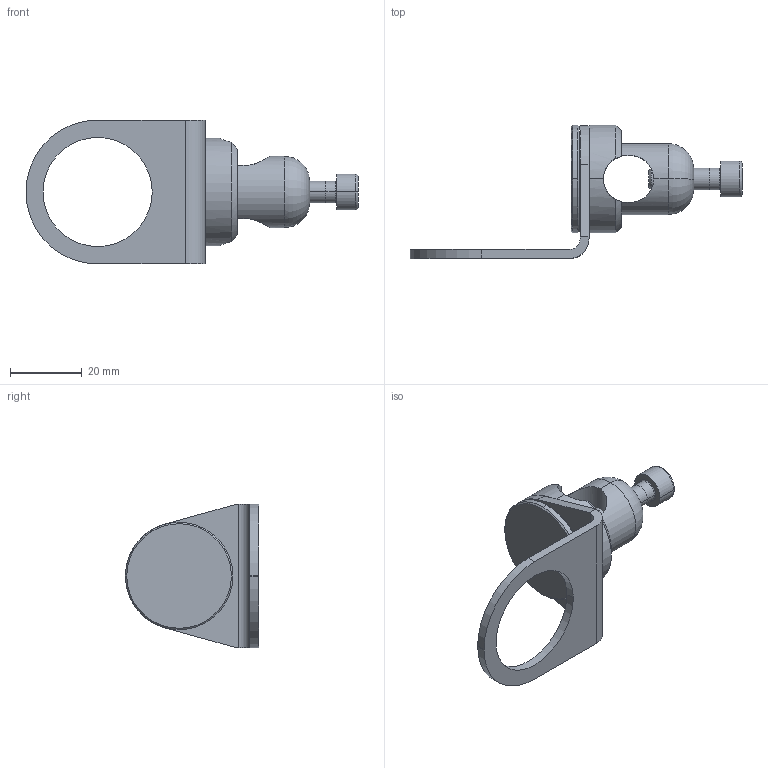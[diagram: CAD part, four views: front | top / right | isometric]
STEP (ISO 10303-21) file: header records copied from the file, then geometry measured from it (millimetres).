
FILE_DESCRIPTION (( 'STEP AP203' ), '1' );
FILE_NAME ('W30S12VA_HZ (4).STEP', '2024-04-04T13:45:03', ( '' ), ( '' ), 'SwSTEP 2.0', 'SolidWorks 2021', '' );
FILE_SCHEMA (( 'CONFIG_CONTROL_DESIGN' ));
Length unit declared in the file: millimetre
Products named in the file (4): 1032560_1; W30S12VA_HZ (4); ZNR11935_1; 1037466_1
Assembly tree (3 placements, depth 2):
  W30S12VA_HZ (4)
    1037466_1
    1032560_1
    ZNR11935_1
Bounding box: 92.7 x 37.2 x 40.2 mm (x, y, z)
Volume: 16101.7 mm3; surface area: 11222.7 mm2
Topology: 4 solids, 4 shells, 88 faces, 214 edges, 138 vertices
Faces by surface type: cylinder 37, plane 31, cone 14, bspline 4, torus 2
Entity records: 3475 total; most frequent: CARTESIAN_POINT 981, DIRECTION 446, ORIENTED_EDGE 428, EDGE_CURVE 214, AXIS2_PLACEMENT_3D 174, VERTEX_POINT 138, EDGE_LOOP 102, LINE 98
